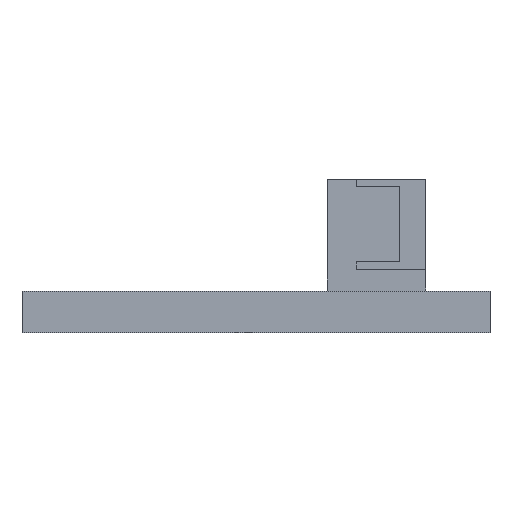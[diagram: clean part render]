
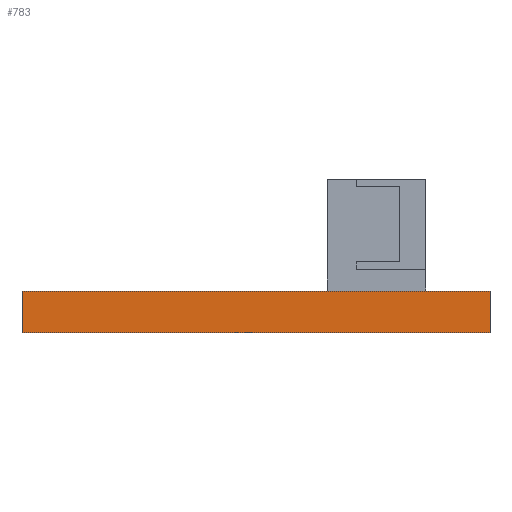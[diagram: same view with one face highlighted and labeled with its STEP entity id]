
A CAD part, front view. The second image highlights one B-rep face of the part: STEP entity #783.
In plain terms, the highlighted planar face has unit normal (0, -1, 0).
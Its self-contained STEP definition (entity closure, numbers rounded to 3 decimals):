
#22 = VERTEX_POINT('',#23);
#23 = CARTESIAN_POINT('',(-28.,12.,-35.));
#32 = PLANE('',#33);
#33 = AXIS2_PLACEMENT_3D('',#34,#35,#36);
#34 = CARTESIAN_POINT('',(-28.,12.,-40.));
#35 = DIRECTION('',(1.,0.,0.));
#36 = DIRECTION('',(0.,0.,1.));
#44 = PLANE('',#45);
#45 = AXIS2_PLACEMENT_3D('',#46,#47,#48);
#46 = CARTESIAN_POINT('',(-28.,12.,-35.));
#47 = DIRECTION('',(0.,0.,1.));
#48 = DIRECTION('',(1.,0.,0.));
#56 = EDGE_CURVE('',#57,#22,#59,.T.);
#57 = VERTEX_POINT('',#58);
#58 = CARTESIAN_POINT('',(-28.,12.,-40.));
#59 = SURFACE_CURVE('',#60,(#64,#71),.PCURVE_S1.);
#60 = LINE('',#61,#62);
#61 = CARTESIAN_POINT('',(-28.,12.,-40.));
#62 = VECTOR('',#63,1.);
#63 = DIRECTION('',(0.,0.,1.));
#64 = PCURVE('',#32,#65);
#65 = DEFINITIONAL_REPRESENTATION('',(#66),#70);
#66 = LINE('',#67,#68);
#67 = CARTESIAN_POINT('',(0.,0.));
#68 = VECTOR('',#69,1.);
#69 = DIRECTION('',(1.,0.));
#70 = ( GEOMETRIC_REPRESENTATION_CONTEXT(2) 
PARAMETRIC_REPRESENTATION_CONTEXT() REPRESENTATION_CONTEXT('2D SPACE',''
  ) );
#71 = PCURVE('',#72,#77);
#72 = PLANE('',#73);
#73 = AXIS2_PLACEMENT_3D('',#74,#75,#76);
#74 = CARTESIAN_POINT('',(-28.,12.,-40.));
#75 = DIRECTION('',(0.,1.,0.));
#76 = DIRECTION('',(0.,0.,1.));
#77 = DEFINITIONAL_REPRESENTATION('',(#78),#82);
#78 = LINE('',#79,#80);
#79 = CARTESIAN_POINT('',(0.,0.));
#80 = VECTOR('',#81,1.);
#81 = DIRECTION('',(1.,0.));
#82 = ( GEOMETRIC_REPRESENTATION_CONTEXT(2) 
PARAMETRIC_REPRESENTATION_CONTEXT() REPRESENTATION_CONTEXT('2D SPACE',''
  ) );
#100 = PLANE('',#101);
#101 = AXIS2_PLACEMENT_3D('',#102,#103,#104);
#102 = CARTESIAN_POINT('',(-28.,12.,-40.));
#103 = DIRECTION('',(0.,0.,1.));
#104 = DIRECTION('',(1.,0.,0.));
#271 = EDGE_CURVE('',#22,#272,#274,.T.);
#272 = VERTEX_POINT('',#273);
#273 = CARTESIAN_POINT('',(28.,12.,-35.));
#274 = SURFACE_CURVE('',#275,(#279,#286),.PCURVE_S1.);
#275 = LINE('',#276,#277);
#276 = CARTESIAN_POINT('',(-28.,12.,-35.));
#277 = VECTOR('',#278,1.);
#278 = DIRECTION('',(1.,0.,0.));
#279 = PCURVE('',#44,#280);
#280 = DEFINITIONAL_REPRESENTATION('',(#281),#285);
#281 = LINE('',#282,#283);
#282 = CARTESIAN_POINT('',(0.,0.));
#283 = VECTOR('',#284,1.);
#284 = DIRECTION('',(1.,0.));
#285 = ( GEOMETRIC_REPRESENTATION_CONTEXT(2) 
PARAMETRIC_REPRESENTATION_CONTEXT() REPRESENTATION_CONTEXT('2D SPACE',''
  ) );
#286 = PCURVE('',#72,#287);
#287 = DEFINITIONAL_REPRESENTATION('',(#288),#292);
#288 = LINE('',#289,#290);
#289 = CARTESIAN_POINT('',(5.,0.));
#290 = VECTOR('',#291,1.);
#291 = DIRECTION('',(0.,1.));
#292 = ( GEOMETRIC_REPRESENTATION_CONTEXT(2) 
PARAMETRIC_REPRESENTATION_CONTEXT() REPRESENTATION_CONTEXT('2D SPACE',''
  ) );
#310 = PLANE('',#311);
#311 = AXIS2_PLACEMENT_3D('',#312,#313,#314);
#312 = CARTESIAN_POINT('',(28.,12.,-40.));
#313 = DIRECTION('',(1.,0.,0.));
#314 = DIRECTION('',(0.,0.,1.));
#739 = EDGE_CURVE('',#57,#740,#742,.T.);
#740 = VERTEX_POINT('',#741);
#741 = CARTESIAN_POINT('',(28.,12.,-40.));
#742 = SURFACE_CURVE('',#743,(#747,#754),.PCURVE_S1.);
#743 = LINE('',#744,#745);
#744 = CARTESIAN_POINT('',(-28.,12.,-40.));
#745 = VECTOR('',#746,1.);
#746 = DIRECTION('',(1.,0.,0.));
#747 = PCURVE('',#100,#748);
#748 = DEFINITIONAL_REPRESENTATION('',(#749),#753);
#749 = LINE('',#750,#751);
#750 = CARTESIAN_POINT('',(0.,0.));
#751 = VECTOR('',#752,1.);
#752 = DIRECTION('',(1.,0.));
#753 = ( GEOMETRIC_REPRESENTATION_CONTEXT(2) 
PARAMETRIC_REPRESENTATION_CONTEXT() REPRESENTATION_CONTEXT('2D SPACE',''
  ) );
#754 = PCURVE('',#72,#755);
#755 = DEFINITIONAL_REPRESENTATION('',(#756),#760);
#756 = LINE('',#757,#758);
#757 = CARTESIAN_POINT('',(0.,0.));
#758 = VECTOR('',#759,1.);
#759 = DIRECTION('',(0.,1.));
#760 = ( GEOMETRIC_REPRESENTATION_CONTEXT(2) 
PARAMETRIC_REPRESENTATION_CONTEXT() REPRESENTATION_CONTEXT('2D SPACE',''
  ) );
#783 = ADVANCED_FACE('',(#784),#72,.F.);
#784 = FACE_BOUND('',#785,.F.);
#785 = EDGE_LOOP('',(#786,#787,#788,#789));
#786 = ORIENTED_EDGE('',*,*,#739,.F.);
#787 = ORIENTED_EDGE('',*,*,#56,.T.);
#788 = ORIENTED_EDGE('',*,*,#271,.T.);
#789 = ORIENTED_EDGE('',*,*,#790,.F.);
#790 = EDGE_CURVE('',#740,#272,#791,.T.);
#791 = SURFACE_CURVE('',#792,(#796,#803),.PCURVE_S1.);
#792 = LINE('',#793,#794);
#793 = CARTESIAN_POINT('',(28.,12.,-40.));
#794 = VECTOR('',#795,1.);
#795 = DIRECTION('',(0.,0.,1.));
#796 = PCURVE('',#72,#797);
#797 = DEFINITIONAL_REPRESENTATION('',(#798),#802);
#798 = LINE('',#799,#800);
#799 = CARTESIAN_POINT('',(0.,56.));
#800 = VECTOR('',#801,1.);
#801 = DIRECTION('',(1.,0.));
#802 = ( GEOMETRIC_REPRESENTATION_CONTEXT(2) 
PARAMETRIC_REPRESENTATION_CONTEXT() REPRESENTATION_CONTEXT('2D SPACE',''
  ) );
#803 = PCURVE('',#310,#804);
#804 = DEFINITIONAL_REPRESENTATION('',(#805),#809);
#805 = LINE('',#806,#807);
#806 = CARTESIAN_POINT('',(0.,0.));
#807 = VECTOR('',#808,1.);
#808 = DIRECTION('',(1.,0.));
#809 = ( GEOMETRIC_REPRESENTATION_CONTEXT(2) 
PARAMETRIC_REPRESENTATION_CONTEXT() REPRESENTATION_CONTEXT('2D SPACE',''
  ) );
